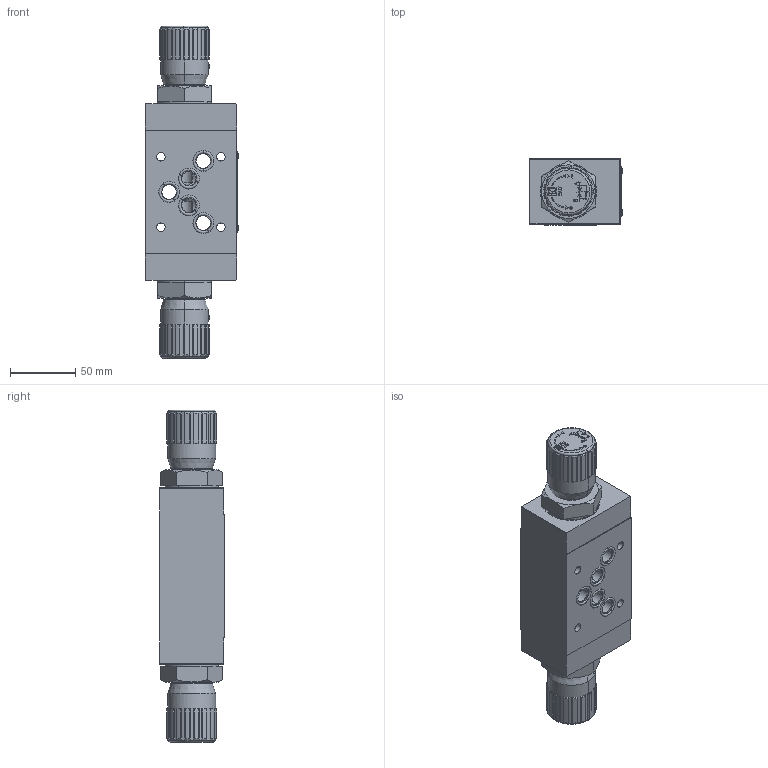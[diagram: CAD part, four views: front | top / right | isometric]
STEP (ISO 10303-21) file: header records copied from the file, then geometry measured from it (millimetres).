
FILE_DESCRIPTION (( 'STEP AP214' ), '1' );
FILE_NAME ('357-5-AB-05-H.STEP', '2020-06-01T11:48:43', ( '' ), ( '' ), 'SwSTEP 2.0', 'SolidWorks 2018', '' );
FILE_SCHEMA (( 'AUTOMOTIVE_DESIGN' ));
Length unit declared in the file: millimetre
Products named in the file (22): OR 106; OR4112; CORPO CARTUCCIA 357-5-AB.101.00.0-05; 357-5-AB-05-H; OR2050; BUSSOLA DI TENUTA 267-5.018.00.0-12; VALVOLA TENUTA METALLICA 267-5.008.00.1-12; TARGHETTA 357-5-AB.015.00-05-H; OR 3081; VOLANTINO DI MANOVRA 257-2.005.00.0-12_Tipo12; CORPO VALVOLA 357-5-AB.001.00-05-H; MOLLA 2257-6.009.00.0-12_COMPRESSA; GRANO DI BLOCCAGGIO M5X8_Tipo18; VITE DI REGOLAZIONE 267-5.017.00.0-12; CAPPUCCIO VOLANTINO 257-5.007.00.1-12_Tipo12; SPILLO DI REGOLAZIONE 267-5.002.00.1-12; 267-5-12 NO CORPO CARTUCCIA; BK 106; DISCO FASCETTA 257-1.004.00.1-12; ANELLO DI FERMO 1251-2.003.00.1-34; VITE TESTA BOMBATA 257-1.006.00.1-12; RIVETTO D=2 x L=4.6 TAPDM1BS LD FASTENERS
Assembly tree (31 placements, depth 3):
  357-5-AB-05-H
    OR2050  x5
    OR4112  x2
    CORPO CARTUCCIA 357-5-AB.101.00.0-05  x2
    RIVETTO D=2 x L=4.6 TAPDM1BS LD FASTENERS  x4
    267-5-12 NO CORPO CARTUCCIA  x2
      BUSSOLA DI TENUTA 267-5.018.00.0-12
      OR 106
      OR 3081
      SPILLO DI REGOLAZIONE 267-5.002.00.1-12
      VALVOLA TENUTA METALLICA 267-5.008.00.1-12
      VITE DI REGOLAZIONE 267-5.017.00.0-12
      BK 106
      DISCO FASCETTA 257-1.004.00.1-12
      VITE TESTA BOMBATA 257-1.006.00.1-12
      VOLANTINO DI MANOVRA 257-2.005.00.0-12_Tipo12
      CAPPUCCIO VOLANTINO 257-5.007.00.1-12_Tipo12
      ANELLO DI FERMO 1251-2.003.00.1-34
      GRANO DI BLOCCAGGIO M5X8_Tipo18
      MOLLA 2257-6.009.00.0-12_COMPRESSA
    CORPO VALVOLA 357-5-AB.001.00-05-H
    TARGHETTA 357-5-AB.015.00-05-H
Bounding box: 71.66 x 50.58 x 254.6 mm (x, y, z)
Volume: 539798.8 mm3; surface area: 151905.8 mm2
Topology: 43 solids, 43 shells, 3162 faces, 8069 edges, 5216 vertices
Faces by surface type: plane 1653, cylinder 630, cone 411, bspline 380, torus 80, sphere 8
Entity records: 112950 total; most frequent: CARTESIAN_POINT 42003, ORIENTED_EDGE 11718, DIRECTION 9627, EDGE_CURVE 5859, LINE 3881, VECTOR 3881, VERTEX_POINT 3830, AXIS2_PLACEMENT_3D 2873
